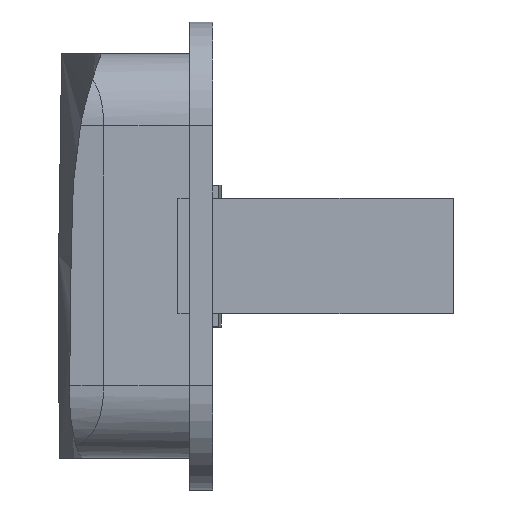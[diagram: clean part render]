
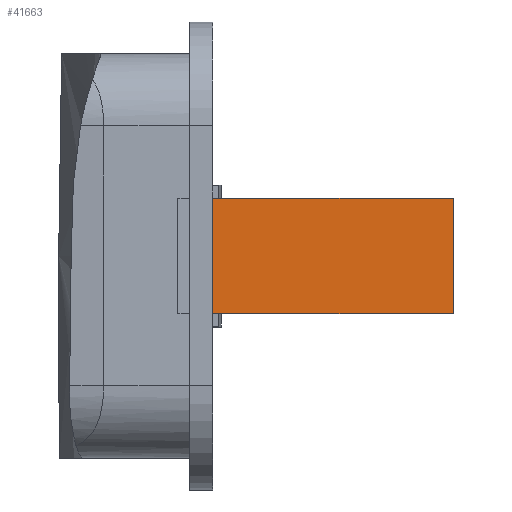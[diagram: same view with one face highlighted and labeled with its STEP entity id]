
A CAD part, top view. The second image highlights one B-rep face of the part: STEP entity #41663.
In plain terms, the highlighted planar face has unit normal (0, 0, 1).
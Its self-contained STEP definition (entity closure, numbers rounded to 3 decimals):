
#39465 = PLANE('',#39466);
#39466 = AXIS2_PLACEMENT_3D('',#39467,#39468,#39469);
#39467 = CARTESIAN_POINT('',(14.005,-57.8,3.));
#39468 = DIRECTION('',(1.,0.,-0.));
#39469 = DIRECTION('',(0.,0.,1.));
#40508 = VERTEX_POINT('',#40509);
#40509 = CARTESIAN_POINT('',(14.005,-52.8,10.4));
#40522 = PLANE('',#40523);
#40523 = AXIS2_PLACEMENT_3D('',#40524,#40525,#40526);
#40524 = CARTESIAN_POINT('',(12.8,-52.8,8.4));
#40525 = DIRECTION('',(-0.,1.,0.));
#40526 = DIRECTION('',(0.,0.,1.));
#40533 = EDGE_CURVE('',#40534,#40508,#40536,.T.);
#40534 = VERTEX_POINT('',#40535);
#40535 = CARTESIAN_POINT('',(14.005,-48.8,10.4));
#40536 = SURFACE_CURVE('',#40537,(#40541,#40547),.PCURVE_S1.);
#40537 = LINE('',#40538,#40539);
#40538 = CARTESIAN_POINT('',(14.005,-55.3,10.4));
#40539 = VECTOR('',#40540,1.);
#40540 = DIRECTION('',(0.,-1.,0.));
#40541 = PCURVE('',#39465,#40542);
#40542 = DEFINITIONAL_REPRESENTATION('',(#40543),#40546);
#40543 = B_SPLINE_CURVE_WITH_KNOTS('',1,(#40544,#40545),.UNSPECIFIED.,
  .F.,.F.,(2,2),(-6.5,-2.5),.PIECEWISE_BEZIER_KNOTS.);
#40544 = CARTESIAN_POINT('',(7.4,-9.));
#40545 = CARTESIAN_POINT('',(7.4,-5.));
#40546 = ( GEOMETRIC_REPRESENTATION_CONTEXT(2) 
PARAMETRIC_REPRESENTATION_CONTEXT() REPRESENTATION_CONTEXT('2D SPACE',''
  ) );
#40547 = PCURVE('',#40548,#40553);
#40548 = PLANE('',#40549);
#40549 = AXIS2_PLACEMENT_3D('',#40550,#40551,#40552);
#40550 = CARTESIAN_POINT('',(12.8,-52.8,10.4));
#40551 = DIRECTION('',(0.,0.,1.));
#40552 = DIRECTION('',(1.,0.,-0.));
#40553 = DEFINITIONAL_REPRESENTATION('',(#40554),#40557);
#40554 = B_SPLINE_CURVE_WITH_KNOTS('',1,(#40555,#40556),.UNSPECIFIED.,
  .F.,.F.,(2,2),(-6.5,-2.5),.PIECEWISE_BEZIER_KNOTS.);
#40555 = CARTESIAN_POINT('',(1.205,4.));
#40556 = CARTESIAN_POINT('',(1.205,0.));
#40557 = ( GEOMETRIC_REPRESENTATION_CONTEXT(2) 
PARAMETRIC_REPRESENTATION_CONTEXT() REPRESENTATION_CONTEXT('2D SPACE',''
  ) );
#40572 = PLANE('',#40573);
#40573 = AXIS2_PLACEMENT_3D('',#40574,#40575,#40576);
#40574 = CARTESIAN_POINT('',(12.8,-48.8,8.4));
#40575 = DIRECTION('',(-0.,1.,0.));
#40576 = DIRECTION('',(0.,0.,1.));
#41497 = PLANE('',#41498);
#41498 = AXIS2_PLACEMENT_3D('',#41499,#41500,#41501);
#41499 = CARTESIAN_POINT('',(22.34,-52.8,8.4));
#41500 = DIRECTION('',(1.,0.,-0.));
#41501 = DIRECTION('',(0.,0.,1.));
#41620 = EDGE_CURVE('',#40534,#41621,#41623,.T.);
#41621 = VERTEX_POINT('',#41622);
#41622 = CARTESIAN_POINT('',(22.34,-48.8,10.4));
#41623 = SURFACE_CURVE('',#41624,(#41628,#41635),.PCURVE_S1.);
#41624 = LINE('',#41625,#41626);
#41625 = CARTESIAN_POINT('',(12.8,-48.8,10.4));
#41626 = VECTOR('',#41627,1.);
#41627 = DIRECTION('',(1.,0.,-0.));
#41628 = PCURVE('',#40572,#41629);
#41629 = DEFINITIONAL_REPRESENTATION('',(#41630),#41634);
#41630 = LINE('',#41631,#41632);
#41631 = CARTESIAN_POINT('',(2.,0.));
#41632 = VECTOR('',#41633,1.);
#41633 = DIRECTION('',(0.,1.));
#41634 = ( GEOMETRIC_REPRESENTATION_CONTEXT(2) 
PARAMETRIC_REPRESENTATION_CONTEXT() REPRESENTATION_CONTEXT('2D SPACE',''
  ) );
#41635 = PCURVE('',#40548,#41636);
#41636 = DEFINITIONAL_REPRESENTATION('',(#41637),#41641);
#41637 = LINE('',#41638,#41639);
#41638 = CARTESIAN_POINT('',(0.,4.));
#41639 = VECTOR('',#41640,1.);
#41640 = DIRECTION('',(1.,0.));
#41641 = ( GEOMETRIC_REPRESENTATION_CONTEXT(2) 
PARAMETRIC_REPRESENTATION_CONTEXT() REPRESENTATION_CONTEXT('2D SPACE',''
  ) );
#41663 = ADVANCED_FACE('',(#41664),#40548,.T.);
#41664 = FACE_BOUND('',#41665,.T.);
#41665 = EDGE_LOOP('',(#41666,#41667,#41668,#41691));
#41666 = ORIENTED_EDGE('',*,*,#41620,.F.);
#41667 = ORIENTED_EDGE('',*,*,#40533,.T.);
#41668 = ORIENTED_EDGE('',*,*,#41669,.T.);
#41669 = EDGE_CURVE('',#40508,#41670,#41672,.T.);
#41670 = VERTEX_POINT('',#41671);
#41671 = CARTESIAN_POINT('',(22.34,-52.8,10.4));
#41672 = SURFACE_CURVE('',#41673,(#41677,#41684),.PCURVE_S1.);
#41673 = LINE('',#41674,#41675);
#41674 = CARTESIAN_POINT('',(12.8,-52.8,10.4));
#41675 = VECTOR('',#41676,1.);
#41676 = DIRECTION('',(1.,0.,-0.));
#41677 = PCURVE('',#40548,#41678);
#41678 = DEFINITIONAL_REPRESENTATION('',(#41679),#41683);
#41679 = LINE('',#41680,#41681);
#41680 = CARTESIAN_POINT('',(0.,0.));
#41681 = VECTOR('',#41682,1.);
#41682 = DIRECTION('',(1.,0.));
#41683 = ( GEOMETRIC_REPRESENTATION_CONTEXT(2) 
PARAMETRIC_REPRESENTATION_CONTEXT() REPRESENTATION_CONTEXT('2D SPACE',''
  ) );
#41684 = PCURVE('',#40522,#41685);
#41685 = DEFINITIONAL_REPRESENTATION('',(#41686),#41690);
#41686 = LINE('',#41687,#41688);
#41687 = CARTESIAN_POINT('',(2.,0.));
#41688 = VECTOR('',#41689,1.);
#41689 = DIRECTION('',(0.,1.));
#41690 = ( GEOMETRIC_REPRESENTATION_CONTEXT(2) 
PARAMETRIC_REPRESENTATION_CONTEXT() REPRESENTATION_CONTEXT('2D SPACE',''
  ) );
#41691 = ORIENTED_EDGE('',*,*,#41692,.T.);
#41692 = EDGE_CURVE('',#41670,#41621,#41693,.T.);
#41693 = SURFACE_CURVE('',#41694,(#41698,#41705),.PCURVE_S1.);
#41694 = LINE('',#41695,#41696);
#41695 = CARTESIAN_POINT('',(22.34,-52.8,10.4));
#41696 = VECTOR('',#41697,1.);
#41697 = DIRECTION('',(-0.,1.,0.));
#41698 = PCURVE('',#40548,#41699);
#41699 = DEFINITIONAL_REPRESENTATION('',(#41700),#41704);
#41700 = LINE('',#41701,#41702);
#41701 = CARTESIAN_POINT('',(9.54,0.));
#41702 = VECTOR('',#41703,1.);
#41703 = DIRECTION('',(0.,1.));
#41704 = ( GEOMETRIC_REPRESENTATION_CONTEXT(2) 
PARAMETRIC_REPRESENTATION_CONTEXT() REPRESENTATION_CONTEXT('2D SPACE',''
  ) );
#41705 = PCURVE('',#41497,#41706);
#41706 = DEFINITIONAL_REPRESENTATION('',(#41707),#41711);
#41707 = LINE('',#41708,#41709);
#41708 = CARTESIAN_POINT('',(2.,0.));
#41709 = VECTOR('',#41710,1.);
#41710 = DIRECTION('',(0.,-1.));
#41711 = ( GEOMETRIC_REPRESENTATION_CONTEXT(2) 
PARAMETRIC_REPRESENTATION_CONTEXT() REPRESENTATION_CONTEXT('2D SPACE',''
  ) );
